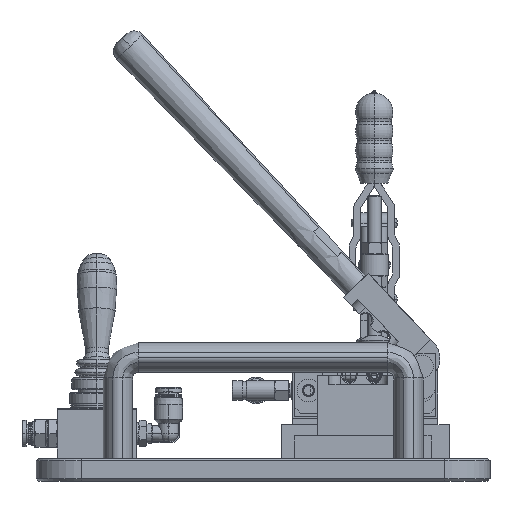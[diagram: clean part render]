
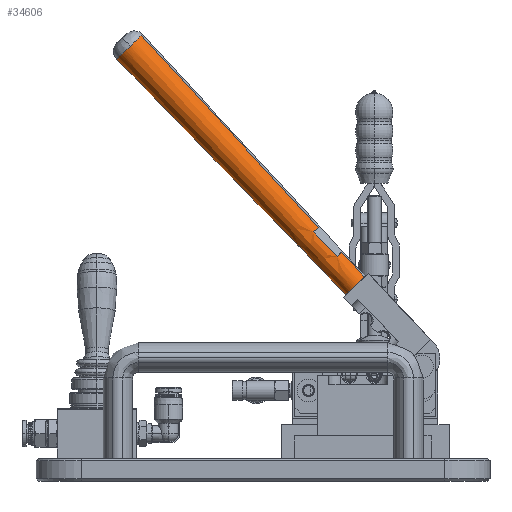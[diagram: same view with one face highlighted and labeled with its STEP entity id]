
A CAD part, left-side view. The second image highlights one B-rep face of the part: STEP entity #34606.
In plain terms, the highlighted conical face has half-angle 0.764 degrees and reference radius 7.932 mm.
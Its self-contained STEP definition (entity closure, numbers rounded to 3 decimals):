
#786 = ORIENTED_EDGE ( 'NONE', *, *, #39266, .F. ) ;
#1616 = ORIENTED_EDGE ( 'NONE', *, *, #37042, .F. ) ;
#2556 = CARTESIAN_POINT ( 'NONE',  ( -5., 3.888, 25. ) ) ;
#2795 = CARTESIAN_POINT ( 'NONE',  ( -7.932, 0., 144.933 ) ) ;
#2926 = AXIS2_PLACEMENT_3D ( 'NONE', #28340, #93874, #37824 ) ;
#3372 = CARTESIAN_POINT ( 'NONE',  ( -6.2, 0., 15. ) ) ;
#3658 = DIRECTION ( 'NONE',  ( -1., 0., 0. ) ) ;
#4684 = VERTEX_POINT ( 'NONE', #68834 ) ;
#4804 = DIRECTION ( 'NONE',  ( -0.878, -0.479, 0. ) ) ;
#6787 = CARTESIAN_POINT ( 'NONE',  ( 5., 3.995, 30. ) ) ;
#6892 = VERTEX_POINT ( 'NONE', #63272 ) ;
#9787 = CARTESIAN_POINT ( 'NONE',  ( -7.932, 0., 144.933 ) ) ;
#11388 = LINE ( 'NONE', #106382, #108251 ) ;
#11809 = VERTEX_POINT ( 'NONE', #29985 ) ;
#15493 = CARTESIAN_POINT ( 'NONE',  ( 7.932, 0., 144.933 ) ) ;
#17376 = CARTESIAN_POINT ( 'NONE',  ( 6., 0., 0. ) ) ;
#19445 = AXIS2_PLACEMENT_3D ( 'NONE', #117129, #61041, #4804 ) ;
#20563 = CIRCLE ( 'NONE', #49996, 7.932 ) ;
#21188 = DIRECTION ( 'NONE',  ( 0., 0., 1. ) ) ;
#22159 = CARTESIAN_POINT ( 'NONE',  ( 0., 0., 144.933 ) ) ;
#24915 = FACE_OUTER_BOUND ( 'NONE', #69073, .T. ) ;
#26422 = CARTESIAN_POINT ( 'NONE',  ( 7.932, 0., 144.933 ) ) ;
#27031 = CARTESIAN_POINT ( 'NONE',  ( -5., 3.995, 30. ) ) ;
#27295 = CIRCLE ( 'NONE', #35882, 6.2 ) ;
#27502 = B_SPLINE_CURVE_WITH_KNOTS ( 'NONE', 3,
 ( #53630, #109749, #63070, #6787 ),
 .UNSPECIFIED., .F., .F.,
 ( 4, 4 ),
 ( 0.01, 0.025 ),
 .UNSPECIFIED. ) ;
#27793 = DIRECTION ( 'NONE',  ( 0., 0., 1. ) ) ;
#28340 = CARTESIAN_POINT ( 'NONE',  ( 0., 0., 0. ) ) ;
#28578 = VECTOR ( 'NONE', #87625, 1000. ) ;
#28597 = CARTESIAN_POINT ( 'NONE',  ( 6.2, 0., 15. ) ) ;
#29028 = VERTEX_POINT ( 'NONE', #15493 ) ;
#29985 = CARTESIAN_POINT ( 'NONE',  ( 5., 3.666, 15. ) ) ;
#30867 = CARTESIAN_POINT ( 'NONE',  ( -5., 3.995, 30. ) ) ;
#31732 = VERTEX_POINT ( 'NONE', #67259 ) ;
#33266 = EDGE_CURVE ( 'NONE', #47434, #104674, #58212, .T. ) ;
#33678 = DIRECTION ( 'NONE',  ( 0., 0., 1. ) ) ;
#34157 = ORIENTED_EDGE ( 'NONE', *, *, #118547, .T. ) ;
#34606 = ADVANCED_FACE ( 'NONE', ( #24915 ), #60076, .T. ) ;
#35563 = ORIENTED_EDGE ( 'NONE', *, *, #61654, .T. ) ;
#35882 = AXIS2_PLACEMENT_3D ( 'NONE', #77342, #21188, #86761 ) ;
#37042 = EDGE_CURVE ( 'NONE', #11809, #104674, #27502, .T. ) ;
#37119 = DIRECTION ( 'NONE',  ( 0.013, 0., 1. ) ) ;
#37824 = DIRECTION ( 'NONE',  ( 1., 0., 0. ) ) ;
#39266 = EDGE_CURVE ( 'NONE', #70034, #4684, #54471, .T. ) ;
#39582 = VERTEX_POINT ( 'NONE', #9787 ) ;
#40344 = CARTESIAN_POINT ( 'NONE',  ( -5., 3.779, 20. ) ) ;
#40690 = AXIS2_PLACEMENT_3D ( 'NONE', #115992, #59857, #3658 ) ;
#41074 = DIRECTION ( 'NONE',  ( 0., 0., 1. ) ) ;
#44433 = EDGE_CURVE ( 'NONE', #47434, #29028, #11388, .T. ) ;
#47434 = VERTEX_POINT ( 'NONE', #100770 ) ;
#47815 = VERTEX_POINT ( 'NONE', #17376 ) ;
#48276 = ORIENTED_EDGE ( 'NONE', *, *, #100886, .T. ) ;
#49282 = DIRECTION ( 'NONE',  ( 0., 0., -1. ) ) ;
#49996 = AXIS2_PLACEMENT_3D ( 'NONE', #105368, #49282, #114799 ) ;
#50635 = LINE ( 'NONE', #112036, #100470 ) ;
#53630 = CARTESIAN_POINT ( 'NONE',  ( 5., 3.666, 15. ) ) ;
#54410 = ORIENTED_EDGE ( 'NONE', *, *, #111914, .T. ) ;
#54471 = B_SPLINE_CURVE_WITH_KNOTS ( 'NONE', 3,
 ( #30867, #2556, #40344, #105868 ),
 .UNSPECIFIED., .F., .F.,
 ( 4, 4 ),
 ( 0.038, 0.053 ),
 .UNSPECIFIED. ) ;
#55895 = DIRECTION ( 'NONE',  ( -0.013, 0., 1. ) ) ;
#58212 = CIRCLE ( 'NONE', #40690, 6.4 ) ;
#59857 = DIRECTION ( 'NONE',  ( 0., 0., 1. ) ) ;
#60076 = CONICAL_SURFACE ( 'NONE', #120905, 7.932, 0.013 ) ;
#61041 = DIRECTION ( 'NONE',  ( 0., 0., -1. ) ) ;
#61256 = CARTESIAN_POINT ( 'NONE',  ( -6., 0., 0. ) ) ;
#61654 = EDGE_CURVE ( 'NONE', #6892, #39582, #50635, .T. ) ;
#63070 = CARTESIAN_POINT ( 'NONE',  ( 5., 3.888, 25. ) ) ;
#63272 = CARTESIAN_POINT ( 'NONE',  ( -6.4, 0., 30. ) ) ;
#63737 = LINE ( 'NONE', #26422, #85665 ) ;
#67259 = CARTESIAN_POINT ( 'NONE',  ( -4., 6.85, 144.933 ) ) ;
#68834 = CARTESIAN_POINT ( 'NONE',  ( -5., 3.666, 15. ) ) ;
#69073 = EDGE_LOOP ( 'NONE', ( #34157, #118775, #104315, #786, #48276, #35563, #92928, #54410, #115731, #77747, #1616, #120166, #101809 ) ) ;
#70034 = VERTEX_POINT ( 'NONE', #27031 ) ;
#73873 = AXIS2_PLACEMENT_3D ( 'NONE', #89723, #33678, #99198 ) ;
#77342 = CARTESIAN_POINT ( 'NONE',  ( 0., 0., 15. ) ) ;
#77604 = AXIS2_PLACEMENT_3D ( 'NONE', #83914, #27793, #93281 ) ;
#77747 = ORIENTED_EDGE ( 'NONE', *, *, #33266, .T. ) ;
#83665 = EDGE_CURVE ( 'NONE', #95178, #90714, #103349, .T. ) ;
#83914 = CARTESIAN_POINT ( 'NONE',  ( 0., 0., 15. ) ) ;
#85665 = VECTOR ( 'NONE', #37119, 1000. ) ;
#86761 = DIRECTION ( 'NONE',  ( -1., 0., 0. ) ) ;
#87625 = DIRECTION ( 'NONE',  ( -0.013, 0., 1. ) ) ;
#89109 = CARTESIAN_POINT ( 'NONE',  ( 5., 3.995, 30. ) ) ;
#89723 = CARTESIAN_POINT ( 'NONE',  ( 0., 0., 30. ) ) ;
#89932 = CIRCLE ( 'NONE', #19445, 7.932 ) ;
#90714 = VERTEX_POINT ( 'NONE', #3372 ) ;
#92928 = ORIENTED_EDGE ( 'NONE', *, *, #95478, .T. ) ;
#93281 = DIRECTION ( 'NONE',  ( -1., 0., 0. ) ) ;
#93874 = DIRECTION ( 'NONE',  ( 0., 0., 1. ) ) ;
#95178 = VERTEX_POINT ( 'NONE', #61256 ) ;
#95478 = EDGE_CURVE ( 'NONE', #39582, #31732, #20563, .T. ) ;
#98694 = CIRCLE ( 'NONE', #73873, 6.4 ) ;
#99198 = DIRECTION ( 'NONE',  ( -1., 0., 0. ) ) ;
#100470 = VECTOR ( 'NONE', #55895, 1000. ) ;
#100770 = CARTESIAN_POINT ( 'NONE',  ( 6.4, 0., 30. ) ) ;
#100886 = EDGE_CURVE ( 'NONE', #70034, #6892, #98694, .T. ) ;
#101634 = CIRCLE ( 'NONE', #2926, 6. ) ;
#101809 = ORIENTED_EDGE ( 'NONE', *, *, #113949, .F. ) ;
#103349 = LINE ( 'NONE', #2795, #28578 ) ;
#104315 = ORIENTED_EDGE ( 'NONE', *, *, #110714, .F. ) ;
#104674 = VERTEX_POINT ( 'NONE', #89109 ) ;
#105368 = CARTESIAN_POINT ( 'NONE',  ( 0., 0., 144.933 ) ) ;
#105868 = CARTESIAN_POINT ( 'NONE',  ( -5., 3.666, 15. ) ) ;
#106073 = EDGE_CURVE ( 'NONE', #119021, #11809, #117678, .T. ) ;
#106382 = CARTESIAN_POINT ( 'NONE',  ( 7.932, 0., 144.933 ) ) ;
#106587 = DIRECTION ( 'NONE',  ( 1., 0., 0. ) ) ;
#108251 = VECTOR ( 'NONE', #116591, 1000. ) ;
#109749 = CARTESIAN_POINT ( 'NONE',  ( 5., 3.779, 20. ) ) ;
#110714 = EDGE_CURVE ( 'NONE', #4684, #90714, #27295, .T. ) ;
#111914 = EDGE_CURVE ( 'NONE', #31732, #29028, #89932, .T. ) ;
#112036 = CARTESIAN_POINT ( 'NONE',  ( -7.932, 0., 144.933 ) ) ;
#113949 = EDGE_CURVE ( 'NONE', #47815, #119021, #63737, .T. ) ;
#114799 = DIRECTION ( 'NONE',  ( -0.878, -0.479, 0. ) ) ;
#115731 = ORIENTED_EDGE ( 'NONE', *, *, #44433, .F. ) ;
#115992 = CARTESIAN_POINT ( 'NONE',  ( 0., 0., 30. ) ) ;
#116591 = DIRECTION ( 'NONE',  ( 0.013, 0., 1. ) ) ;
#117129 = CARTESIAN_POINT ( 'NONE',  ( 0., 0., 144.933 ) ) ;
#117678 = CIRCLE ( 'NONE', #77604, 6.2 ) ;
#118547 = EDGE_CURVE ( 'NONE', #47815, #95178, #101634, .T. ) ;
#118775 = ORIENTED_EDGE ( 'NONE', *, *, #83665, .T. ) ;
#119021 = VERTEX_POINT ( 'NONE', #28597 ) ;
#120166 = ORIENTED_EDGE ( 'NONE', *, *, #106073, .F. ) ;
#120905 = AXIS2_PLACEMENT_3D ( 'NONE', #22159, #41074, #106587 ) ;
